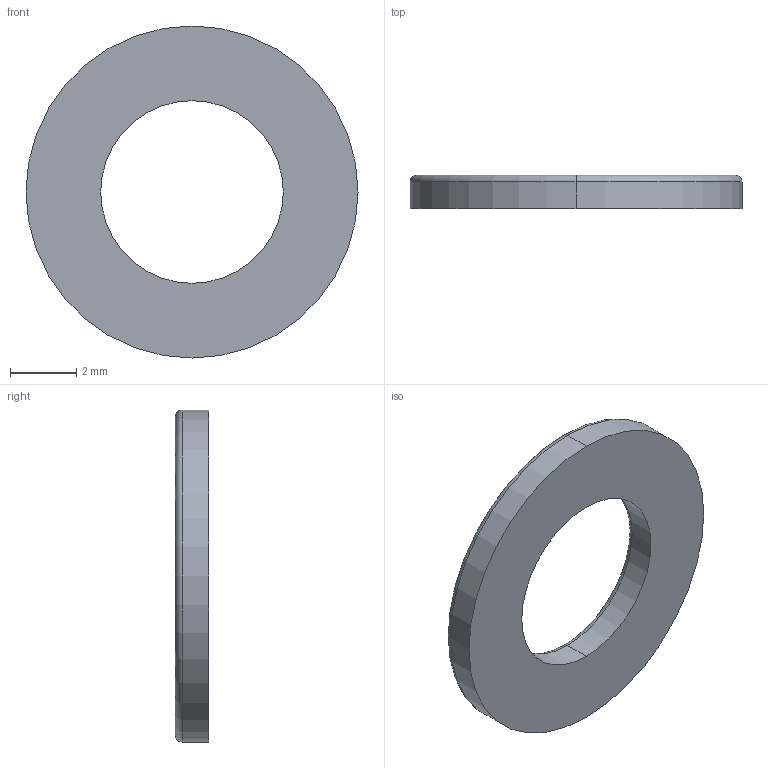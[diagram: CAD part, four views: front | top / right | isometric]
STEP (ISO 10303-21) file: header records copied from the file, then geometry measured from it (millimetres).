
FILE_DESCRIPTION (( 'STEP AP203' ), '1' );
FILE_NAME ('156-CE-FG-5.STEP', '2015-07-09T09:08:38', ( '' ), ( '' ), 'SwSTEP 2.0', 'SolidWorks 2013', '' );
FILE_SCHEMA (( 'CONFIG_CONTROL_DESIGN' ));
Length unit declared in the file: millimetre
Products named in the file (1): 156-CE-FG-5
Bounding box: 10 x 1 x 10 mm (x, y, z)
Volume: 54.4 mm3; surface area: 154.1 mm2
Topology: 1 solids, 1 shells, 10 faces, 20 edges, 12 vertices
Faces by surface type: torus 4, cylinder 4, plane 2
Entity records: 349 total; most frequent: DIRECTION 58, CARTESIAN_POINT 43, ORIENTED_EDGE 40, AXIS2_PLACEMENT_3D 27, EDGE_CURVE 20, CIRCLE 16, EDGE_LOOP 12, VERTEX_POINT 12
